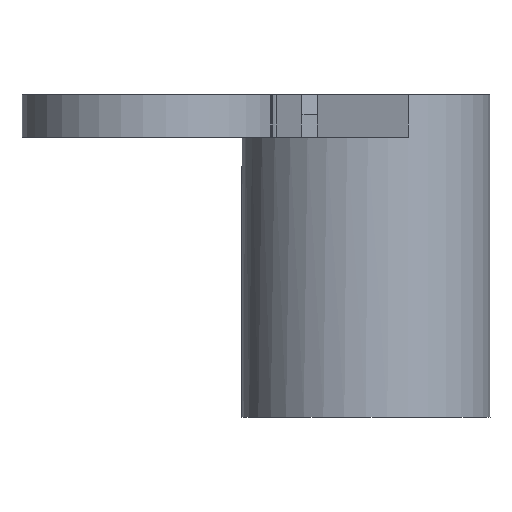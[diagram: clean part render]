
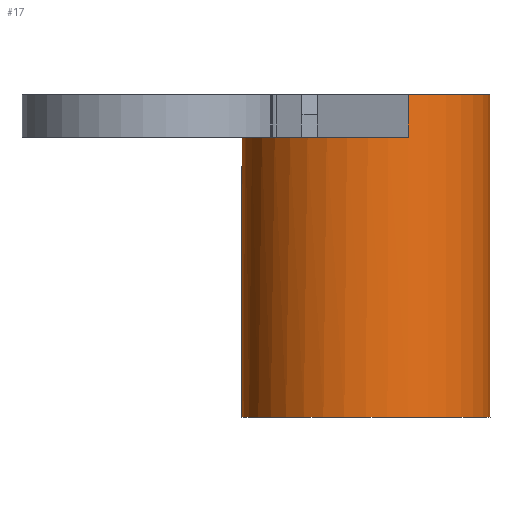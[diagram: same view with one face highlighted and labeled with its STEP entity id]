
A CAD part, left-side view. The second image highlights one B-rep face of the part: STEP entity #17.
In plain terms, the highlighted cylindrical face has radius 3.5 mm (diameter 7 mm), a full revolution.
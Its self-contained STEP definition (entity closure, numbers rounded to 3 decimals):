
#17 = ADVANCED_FACE('',(#18),#31,.T.);
#18 = FACE_BOUND('',#19,.F.);
#19 = EDGE_LOOP('',(#20,#54,#77,#106,#133,#166,#193,#215));
#20 = ORIENTED_EDGE('',*,*,#21,.F.);
#21 = EDGE_CURVE('',#22,#22,#24,.T.);
#22 = VERTEX_POINT('',#23);
#23 = CARTESIAN_POINT('',(17.5,-19.,2.1));
#24 = SURFACE_CURVE('',#25,(#30,#42),.PCURVE_S1.);
#25 = CIRCLE('',#26,3.5);
#26 = AXIS2_PLACEMENT_3D('',#27,#28,#29);
#27 = CARTESIAN_POINT('',(14.,-19.,2.1));
#28 = DIRECTION('',(0.,0.,1.));
#29 = DIRECTION('',(1.,0.,0.));
#30 = PCURVE('',#31,#36);
#31 = CYLINDRICAL_SURFACE('',#32,3.5);
#32 = AXIS2_PLACEMENT_3D('',#33,#34,#35);
#33 = CARTESIAN_POINT('',(14.,-19.,2.1));
#34 = DIRECTION('',(-0.,-0.,-1.));
#35 = DIRECTION('',(1.,0.,0.));
#36 = DEFINITIONAL_REPRESENTATION('',(#37),#41);
#37 = LINE('',#38,#39);
#38 = CARTESIAN_POINT('',(-0.,0.));
#39 = VECTOR('',#40,1.);
#40 = DIRECTION('',(-1.,0.));
#41 = ( GEOMETRIC_REPRESENTATION_CONTEXT(2) 
PARAMETRIC_REPRESENTATION_CONTEXT() REPRESENTATION_CONTEXT('2D SPACE',''
  ) );
#42 = PCURVE('',#43,#48);
#43 = PLANE('',#44);
#44 = AXIS2_PLACEMENT_3D('',#45,#46,#47);
#45 = CARTESIAN_POINT('',(14.,-19.,2.1));
#46 = DIRECTION('',(0.,0.,1.));
#47 = DIRECTION('',(1.,0.,-0.));
#48 = DEFINITIONAL_REPRESENTATION('',(#49),#53);
#49 = CIRCLE('',#50,3.5);
#50 = AXIS2_PLACEMENT_2D('',#51,#52);
#51 = CARTESIAN_POINT('',(0.,0.));
#52 = DIRECTION('',(1.,0.));
#53 = ( GEOMETRIC_REPRESENTATION_CONTEXT(2) 
PARAMETRIC_REPRESENTATION_CONTEXT() REPRESENTATION_CONTEXT('2D SPACE',''
  ) );
#54 = ORIENTED_EDGE('',*,*,#55,.F.);
#55 = EDGE_CURVE('',#56,#22,#58,.T.);
#56 = VERTEX_POINT('',#57);
#57 = CARTESIAN_POINT('',(17.5,-19.,11.2));
#58 = SEAM_CURVE('',#59,(#63,#70),.PCURVE_S1.);
#59 = LINE('',#60,#61);
#60 = CARTESIAN_POINT('',(17.5,-19.,11.2));
#61 = VECTOR('',#62,1.);
#62 = DIRECTION('',(0.,0.,-1.));
#63 = PCURVE('',#31,#64);
#64 = DEFINITIONAL_REPRESENTATION('',(#65),#69);
#65 = LINE('',#66,#67);
#66 = CARTESIAN_POINT('',(-0.,-9.1));
#67 = VECTOR('',#68,1.);
#68 = DIRECTION('',(0.,1.));
#69 = ( GEOMETRIC_REPRESENTATION_CONTEXT(2) 
PARAMETRIC_REPRESENTATION_CONTEXT() REPRESENTATION_CONTEXT('2D SPACE',''
  ) );
#70 = PCURVE('',#31,#71);
#71 = DEFINITIONAL_REPRESENTATION('',(#72),#76);
#72 = LINE('',#73,#74);
#73 = CARTESIAN_POINT('',(-6.283,-9.1));
#74 = VECTOR('',#75,1.);
#75 = DIRECTION('',(0.,1.));
#76 = ( GEOMETRIC_REPRESENTATION_CONTEXT(2) 
PARAMETRIC_REPRESENTATION_CONTEXT() REPRESENTATION_CONTEXT('2D SPACE',''
  ) );
#77 = ORIENTED_EDGE('',*,*,#78,.T.);
#78 = EDGE_CURVE('',#56,#79,#81,.T.);
#79 = VERTEX_POINT('',#80);
#80 = CARTESIAN_POINT('',(12.604,-15.791,11.2));
#81 = SURFACE_CURVE('',#82,(#87,#94),.PCURVE_S1.);
#82 = CIRCLE('',#83,3.5);
#83 = AXIS2_PLACEMENT_3D('',#84,#85,#86);
#84 = CARTESIAN_POINT('',(14.,-19.,11.2));
#85 = DIRECTION('',(0.,0.,1.));
#86 = DIRECTION('',(1.,0.,0.));
#87 = PCURVE('',#31,#88);
#88 = DEFINITIONAL_REPRESENTATION('',(#89),#93);
#89 = LINE('',#90,#91);
#90 = CARTESIAN_POINT('',(-0.,-9.1));
#91 = VECTOR('',#92,1.);
#92 = DIRECTION('',(-1.,0.));
#93 = ( GEOMETRIC_REPRESENTATION_CONTEXT(2) 
PARAMETRIC_REPRESENTATION_CONTEXT() REPRESENTATION_CONTEXT('2D SPACE',''
  ) );
#94 = PCURVE('',#95,#100);
#95 = PLANE('',#96);
#96 = AXIS2_PLACEMENT_3D('',#97,#98,#99);
#97 = CARTESIAN_POINT('',(14.,-19.,11.2));
#98 = DIRECTION('',(0.,0.,1.));
#99 = DIRECTION('',(1.,0.,-0.));
#100 = DEFINITIONAL_REPRESENTATION('',(#101),#105);
#101 = CIRCLE('',#102,3.5);
#102 = AXIS2_PLACEMENT_2D('',#103,#104);
#103 = CARTESIAN_POINT('',(0.,0.));
#104 = DIRECTION('',(1.,0.));
#105 = ( GEOMETRIC_REPRESENTATION_CONTEXT(2) 
PARAMETRIC_REPRESENTATION_CONTEXT() REPRESENTATION_CONTEXT('2D SPACE',''
  ) );
#106 = ORIENTED_EDGE('',*,*,#107,.T.);
#107 = EDGE_CURVE('',#79,#108,#110,.T.);
#108 = VERTEX_POINT('',#109);
#109 = CARTESIAN_POINT('',(12.604,-15.791,10.));
#110 = SURFACE_CURVE('',#111,(#115,#122),.PCURVE_S1.);
#111 = LINE('',#112,#113);
#112 = CARTESIAN_POINT('',(12.604,-15.791,10.));
#113 = VECTOR('',#114,1.);
#114 = DIRECTION('',(-0.,-0.,-1.));
#115 = PCURVE('',#31,#116);
#116 = DEFINITIONAL_REPRESENTATION('',(#117),#121);
#117 = LINE('',#118,#119);
#118 = CARTESIAN_POINT('',(-1.981,-7.9));
#119 = VECTOR('',#120,1.);
#120 = DIRECTION('',(-0.,1.));
#121 = ( GEOMETRIC_REPRESENTATION_CONTEXT(2) 
PARAMETRIC_REPRESENTATION_CONTEXT() REPRESENTATION_CONTEXT('2D SPACE',''
  ) );
#122 = PCURVE('',#123,#128);
#123 = PLANE('',#124);
#124 = AXIS2_PLACEMENT_3D('',#125,#126,#127);
#125 = CARTESIAN_POINT('',(0.945,-10.794,10.));
#126 = DIRECTION('',(0.394,0.919,0.));
#127 = DIRECTION('',(0.,0.,1.));
#128 = DEFINITIONAL_REPRESENTATION('',(#129),#132);
#129 = B_SPLINE_CURVE_WITH_KNOTS('',1,(#130,#131),.UNSPECIFIED.,.F.,.F.,
  (2,2),(-1.2,0.),.PIECEWISE_BEZIER_KNOTS.);
#130 = CARTESIAN_POINT('',(1.2,12.684));
#131 = CARTESIAN_POINT('',(0.,12.684));
#132 = ( GEOMETRIC_REPRESENTATION_CONTEXT(2) 
PARAMETRIC_REPRESENTATION_CONTEXT() REPRESENTATION_CONTEXT('2D SPACE',''
  ) );
#133 = ORIENTED_EDGE('',*,*,#134,.F.);
#134 = EDGE_CURVE('',#135,#108,#137,.T.);
#135 = VERTEX_POINT('',#136);
#136 = CARTESIAN_POINT('',(10.713,-20.202,10.));
#137 = SURFACE_CURVE('',#138,(#143,#150),.PCURVE_S1.);
#138 = CIRCLE('',#139,3.5);
#139 = AXIS2_PLACEMENT_3D('',#140,#141,#142);
#140 = CARTESIAN_POINT('',(14.,-19.,10.));
#141 = DIRECTION('',(0.,0.,-1.));
#142 = DIRECTION('',(1.,0.,0.));
#143 = PCURVE('',#31,#144);
#144 = DEFINITIONAL_REPRESENTATION('',(#145),#149);
#145 = LINE('',#146,#147);
#146 = CARTESIAN_POINT('',(-6.283,-7.9));
#147 = VECTOR('',#148,1.);
#148 = DIRECTION('',(1.,-0.));
#149 = ( GEOMETRIC_REPRESENTATION_CONTEXT(2) 
PARAMETRIC_REPRESENTATION_CONTEXT() REPRESENTATION_CONTEXT('2D SPACE',''
  ) );
#150 = PCURVE('',#151,#156);
#151 = PLANE('',#152);
#152 = AXIS2_PLACEMENT_3D('',#153,#154,#155);
#153 = CARTESIAN_POINT('',(0.,-13.,10.));
#154 = DIRECTION('',(0.,0.,1.));
#155 = DIRECTION('',(1.,0.,-0.));
#156 = DEFINITIONAL_REPRESENTATION('',(#157),#165);
#157 = ( BOUNDED_CURVE() B_SPLINE_CURVE(2,(#158,#159,#160,#161,#162,#163
,#164),.UNSPECIFIED.,.T.,.F.) B_SPLINE_CURVE_WITH_KNOTS((1,2,2,2,2,1),(
    -2.094,0.,2.094,4.189,6.283,
8.378),.UNSPECIFIED.) CURVE() GEOMETRIC_REPRESENTATION_ITEM() 
RATIONAL_B_SPLINE_CURVE((1.,0.5,1.,0.5,1.,0.5,1.)) REPRESENTATION_ITEM(
  '') );
#158 = CARTESIAN_POINT('',(17.5,-6.));
#159 = CARTESIAN_POINT('',(17.5,-12.062));
#160 = CARTESIAN_POINT('',(12.25,-9.031));
#161 = CARTESIAN_POINT('',(7.,-6.));
#162 = CARTESIAN_POINT('',(12.25,-2.969));
#163 = CARTESIAN_POINT('',(17.5,0.062));
#164 = CARTESIAN_POINT('',(17.5,-6.));
#165 = ( GEOMETRIC_REPRESENTATION_CONTEXT(2) 
PARAMETRIC_REPRESENTATION_CONTEXT() REPRESENTATION_CONTEXT('2D SPACE',''
  ) );
#166 = ORIENTED_EDGE('',*,*,#167,.F.);
#167 = EDGE_CURVE('',#168,#135,#170,.T.);
#168 = VERTEX_POINT('',#169);
#169 = CARTESIAN_POINT('',(10.713,-20.202,11.2));
#170 = SURFACE_CURVE('',#171,(#175,#182),.PCURVE_S1.);
#171 = LINE('',#172,#173);
#172 = CARTESIAN_POINT('',(10.713,-20.202,10.));
#173 = VECTOR('',#174,1.);
#174 = DIRECTION('',(-0.,-0.,-1.));
#175 = PCURVE('',#31,#176);
#176 = DEFINITIONAL_REPRESENTATION('',(#177),#181);
#177 = LINE('',#178,#179);
#178 = CARTESIAN_POINT('',(-3.492,-7.9));
#179 = VECTOR('',#180,1.);
#180 = DIRECTION('',(-0.,1.));
#181 = ( GEOMETRIC_REPRESENTATION_CONTEXT(2) 
PARAMETRIC_REPRESENTATION_CONTEXT() REPRESENTATION_CONTEXT('2D SPACE',''
  ) );
#182 = PCURVE('',#183,#188);
#183 = PLANE('',#184);
#184 = AXIS2_PLACEMENT_3D('',#185,#186,#187);
#185 = CARTESIAN_POINT('',(-0.945,-15.206,10.));
#186 = DIRECTION('',(0.394,0.919,0.));
#187 = DIRECTION('',(0.,0.,1.));
#188 = DEFINITIONAL_REPRESENTATION('',(#189),#192);
#189 = B_SPLINE_CURVE_WITH_KNOTS('',1,(#190,#191),.UNSPECIFIED.,.F.,.F.,
  (2,2),(-1.2,0.),.PIECEWISE_BEZIER_KNOTS.);
#190 = CARTESIAN_POINT('',(1.2,12.684));
#191 = CARTESIAN_POINT('',(0.,12.684));
#192 = ( GEOMETRIC_REPRESENTATION_CONTEXT(2) 
PARAMETRIC_REPRESENTATION_CONTEXT() REPRESENTATION_CONTEXT('2D SPACE',''
  ) );
#193 = ORIENTED_EDGE('',*,*,#194,.T.);
#194 = EDGE_CURVE('',#168,#56,#195,.T.);
#195 = SURFACE_CURVE('',#196,(#201,#208),.PCURVE_S1.);
#196 = CIRCLE('',#197,3.5);
#197 = AXIS2_PLACEMENT_3D('',#198,#199,#200);
#198 = CARTESIAN_POINT('',(14.,-19.,11.2));
#199 = DIRECTION('',(0.,0.,1.));
#200 = DIRECTION('',(1.,0.,0.));
#201 = PCURVE('',#31,#202);
#202 = DEFINITIONAL_REPRESENTATION('',(#203),#207);
#203 = LINE('',#204,#205);
#204 = CARTESIAN_POINT('',(-0.,-9.1));
#205 = VECTOR('',#206,1.);
#206 = DIRECTION('',(-1.,0.));
#207 = ( GEOMETRIC_REPRESENTATION_CONTEXT(2) 
PARAMETRIC_REPRESENTATION_CONTEXT() REPRESENTATION_CONTEXT('2D SPACE',''
  ) );
#208 = PCURVE('',#95,#209);
#209 = DEFINITIONAL_REPRESENTATION('',(#210),#214);
#210 = CIRCLE('',#211,3.5);
#211 = AXIS2_PLACEMENT_2D('',#212,#213);
#212 = CARTESIAN_POINT('',(0.,0.));
#213 = DIRECTION('',(1.,0.));
#214 = ( GEOMETRIC_REPRESENTATION_CONTEXT(2) 
PARAMETRIC_REPRESENTATION_CONTEXT() REPRESENTATION_CONTEXT('2D SPACE',''
  ) );
#215 = ORIENTED_EDGE('',*,*,#55,.T.);
